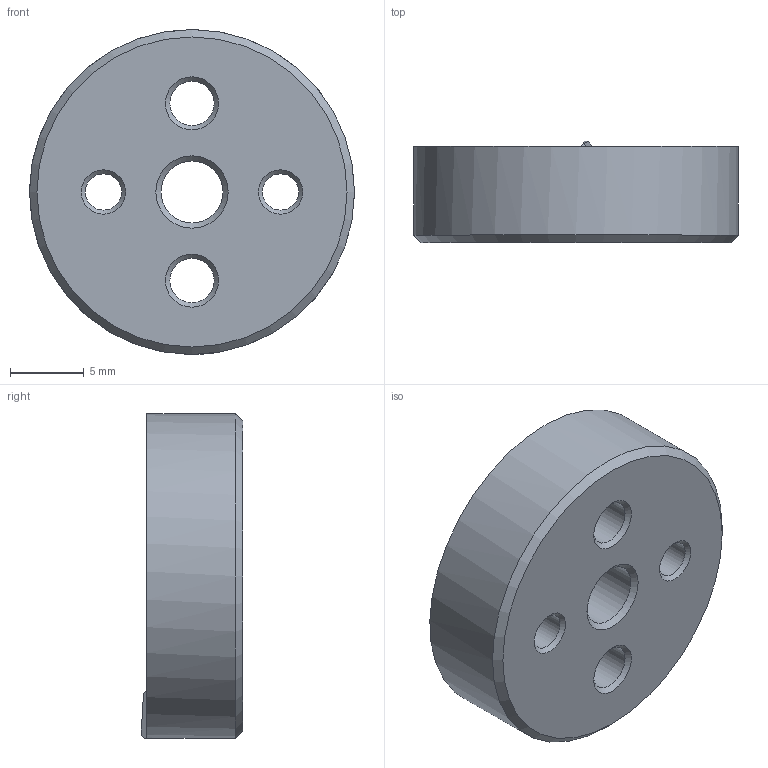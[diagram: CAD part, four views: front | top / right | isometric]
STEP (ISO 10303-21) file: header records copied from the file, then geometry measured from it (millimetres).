
FILE_DESCRIPTION( ( 'STEP AP203' ), '1' );
FILE_NAME( 'C:/Temp/Ganter_Step_05_03_2020/data/3_2/gn187_4/gn187_4_st/Serrated locking plate GN 187.4-22-48-D-ST.stp', '2020-03-13T05:25:45', ( 'License CC BY-ND 4.0' ), ( 'CADENAS' ), ' ', 'PARTsolutions', ' ' );
FILE_SCHEMA( ( 'CONFIG_CONTROL_DESIGN' ) );
Length unit declared in the file: millimetre
Products named in the file (1): _Serrated locking plate GN 187.4-22-48-D-ST
Bounding box: 22 x 6.89 x 22 mm (x, y, z)
Volume: 2062.5 mm3; surface area: 1414.8 mm2
Topology: 1 solids, 1 shells, 30 faces, 74 edges, 46 vertices
Faces by surface type: cone 14, cylinder 9, plane 7
Full cylindrical faces by diameter (mm): 2.459 x2, 3 x2, 4.2 x1, 15.5 x1, 22 x1
Entity records: 924 total; most frequent: CARTESIAN_POINT 229, DIRECTION 142, ORIENTED_EDGE 106, AXIS2_PLACEMENT_3D 68, EDGE_LOOP 58, EDGE_CURVE 53, VERTEX_POINT 43, FACE_OUTER_BOUND 37
